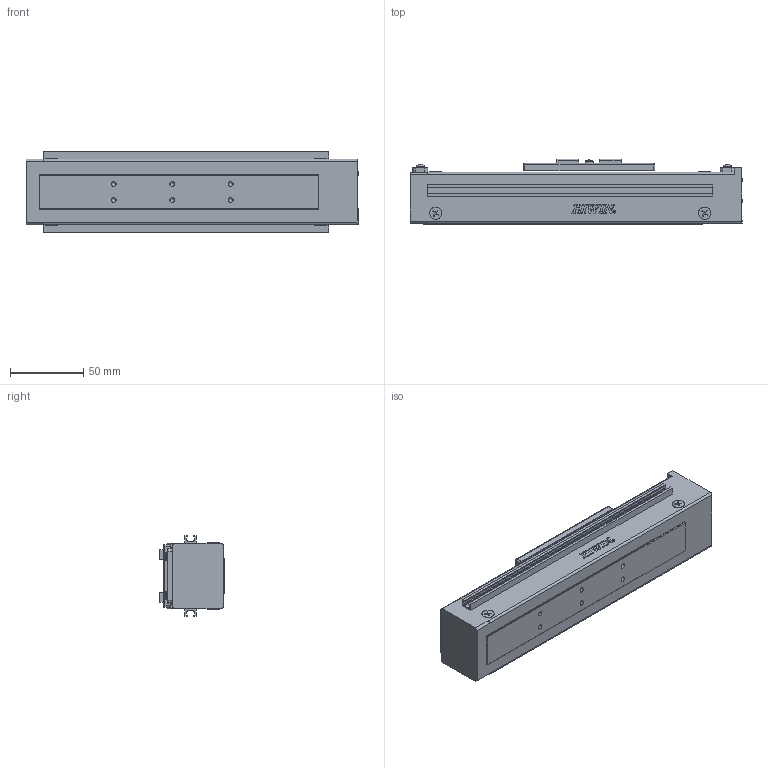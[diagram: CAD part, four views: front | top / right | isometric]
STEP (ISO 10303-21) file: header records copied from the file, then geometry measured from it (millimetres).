
FILE_DESCRIPTION(/* description */ (''),/* implementation_level */ '2;1');
FILE_NAME(/* name */ 'D:\混合母檔20191031\混和母檔\混和母檔\bin\Debug\Download\3D\KE402C-50AF0\KE402C-50AF0.stp',/* time_stamp */ '2019-11-04T13:32:54+08:00',/* author */ ('user'),/* organization */ (''),/* preprocessor_version */ 'ST-DEVELOPER v16.13',/* originating_system */ 'Autodesk Inventor 2018',/* authorisation */ '');
FILE_SCHEMA (('AUTOMOTIVE_DESIGN { 1 0 10303 214 3 1 1 }'));
Length unit declared in the file: millimetre
Products named in the file (3): KE402C-50AF0; KE40-F0-BP; KE40-SL
Assembly tree (2 placements, depth 2):
  KE402C-50AF0
    KE40-F0-BP
    KE40-SL
Bounding box: 227 x 45 x 55 mm (x, y, z)
Volume: 373492.9 mm3; surface area: 66827.3 mm2
Topology: 3 solids, 15 shells, 922 faces, 2490 edges, 1636 vertices
Faces by surface type: plane 471, cone 152, bspline 136, cylinder 91, torus 62, sphere 10
Full cylindrical faces by diameter (mm): 2.459 x6, 2.5 x2, 2.729 x6, 3 x6, 3.242 x6, 3.3 x4, 3.5 x6, 4 x4, 8.4 x8, 20 x1
Entity records: 34107 total; most frequent: CARTESIAN_POINT 12049, ORIENTED_EDGE 4722, DIRECTION 4188, EDGE_CURVE 2361, VERTEX_POINT 1597, AXIS2_PLACEMENT_3D 1411, LINE 1366, VECTOR 1366
